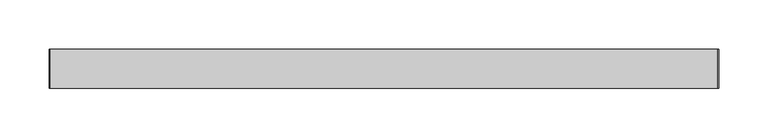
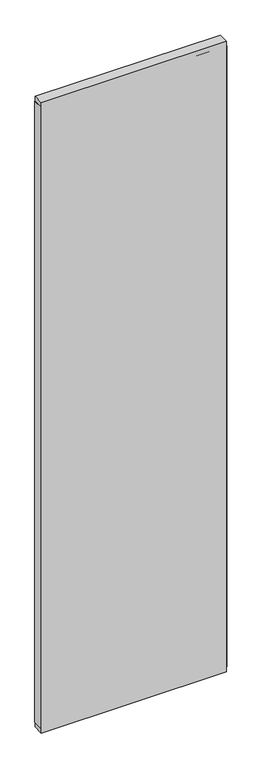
"""IFC4 building model written with IfcOpenShell, lengths in millimetres: plate geometry, Vitré."""

from ifc_helpers import new_model, si_unit, frame, origin, origin_with_axes, place, context, project, spatial, polyline, outline, extrude, source, transform, mapped, element, save


def plate_a5d1e255(model_context):
    return source(origin(), model_context, "Body", "SweptSolid", [
        extrude(outline(polyline([(-340.3125007, -20.0), (-340.3125007, 20.0), (339.6874993, 20.0), (339.6874993, -20.0), (-340.3125007, -20.0)])), origin_with_axes(), (0.0, 0.0, 1.0), 2442.375),
        extrude(outline(polyline([(341.3125, -20.0), (-341.3125, -20.0), (-341.3125, 20.0), (341.3125, 20.0), (341.3125, -20.0)])), frame((0.0, 0.0, 17.375), z_axis=(0.0, 0.0, 1.0), x_axis=(1.0, 0.0, 0.0)), (0.0, 0.0, 1.0), 2407.625),
    ])


if __name__ == "__main__":
    model = new_model("IFC4")
    model_context = context("Model", 3, world=origin())
    ifc_project = project(units=[si_unit("LENGTHUNIT", "METRE", prefix="MILLI")], contexts=[model_context])
    site = spatial("IfcSite", under=ifc_project)
    building = spatial("IfcBuilding", under=site)
    placement = place(None, origin())
    plate_shape = plate_a5d1e255(model_context)
    element("IfcPlate", 1, ObjectType="Vitré", at=placement, inside=building, context=model_context, shape_type="MappedRepresentation", body=[
        mapped(plate_shape, transform((0.0, 0.0, 0.0), x_axis=(1.0, 0.0, 0.0), y_axis=(0.0, 1.0, 0.0), z_axis=(0.0, 0.0, 1.0))),
    ])
    save(model, "model.ifc")
